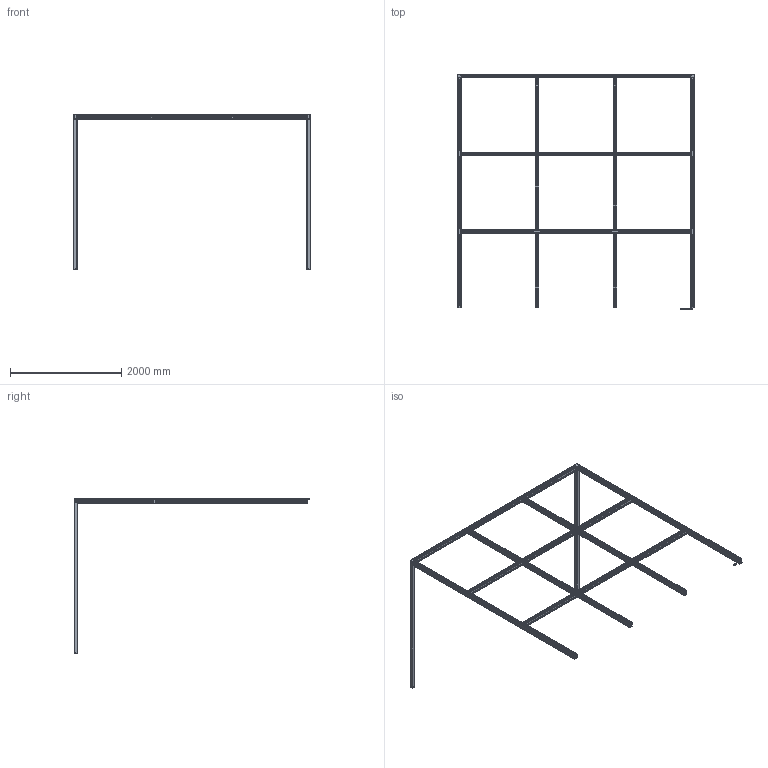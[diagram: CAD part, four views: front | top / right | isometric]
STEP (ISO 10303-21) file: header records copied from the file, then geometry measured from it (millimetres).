
FILE_DESCRIPTION (( 'STEP AP214' ), '1' );
FILE_NAME ('1001979.STEP', '2025-09-15T12:47:04', ( '' ), ( '' ), 'SwSTEP 2.0', 'SolidWorks 2025', '' );
FILE_SCHEMA (( 'AUTOMOTIVE_DESIGN' ));
Length unit declared in the file: millimetre
Products named in the file (1): 1001979
Bounding box: 4262.4 x 4241.88 x 2809 mm (x, y, z)
Volume: 77221716.3 mm3; surface area: 20552062.4 mm2
Topology: 107 solids, 107 shells, 6439 faces, 17968 edges, 11838 vertices
Faces by surface type: plane 4125, cylinder 1972, bspline 204, cone 54, torus 46, sphere 38
Entity records: 218730 total; most frequent: CARTESIAN_POINT 51572, ORIENTED_EDGE 35912, DIRECTION 33187, EDGE_CURVE 17956, LINE 13365, VECTOR 13365, VERTEX_POINT 11832, AXIS2_PLACEMENT_3D 9911
